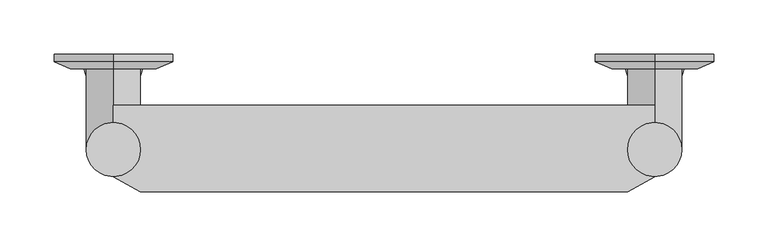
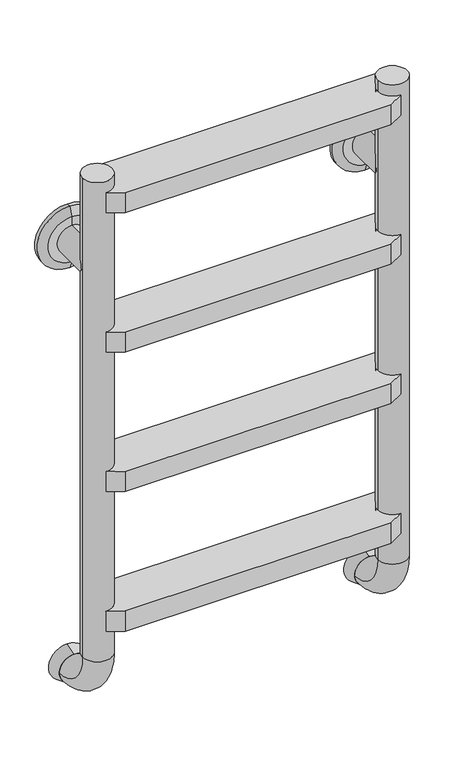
"""IFC4 building model written with IfcOpenShell, lengths in millimetres: proxy geometry, PTDX : PTDX4_Escalera Partida 4 Peldaños."""

import ifcopenshell
import ifcopenshell.guid

model = None  # the IFC model being written
_history = None  # IfcOwnerHistory: only IFC2X3 demands one
_inside = {}  # id of a spatial element -> (the spatial element, [elements in it])
_under = {}  # id of a project, library or spatial element -> (it, [spatial elements below it])
_declared = {}  # id of a project -> (the project, [libraries it declares])
_typed = {}  # id of a type object -> (the type object, [elements of that type])
_made_of = {}  # id of a material, layer set ... -> (it, [elements and type objects made of it])


def new_model(schema):
    """Start an empty IFC model of exactly this schema.

    Asked for "IFC4X3", IfcOpenShell would pick the latest addendum, in which some entities
    have other attributes; the version numbers below select the first issue.
    IFC2X3 requires an IfcOwnerHistory on every rooted entity: one is made here for all.
    """
    global model, _history
    if schema == "IFC4X3":
        model = ifcopenshell.file(schema_version=(4, 3, 0, 0))
    else:
        model = ifcopenshell.file(schema=schema)
    _inside.clear()
    _under.clear()
    _declared.clear()
    _typed.clear()
    _made_of.clear()
    _history = None
    if model.schema == "IFC2X3":
        org = make("IfcOrganization", Name="unknown")
        user = make(
            "IfcPersonAndOrganization",
            ThePerson=make("IfcPerson", FamilyName="unknown"),
            TheOrganization=org,
        )
        app = make(
            "IfcApplication",
            ApplicationDeveloper=org,
            Version="unknown",
            ApplicationFullName="unknown",
            ApplicationIdentifier="unknown",
        )
        _history = make(
            "IfcOwnerHistory",
            OwningUser=user,
            OwningApplication=app,
            ChangeAction="ADDED",
            CreationDate=0,
        )
    return model


def make(cls, **values):
    """One entity of the class cls with the attributes given. An attribute that is None is left unset."""
    return model.create_entity(
        cls, **{name: value for name, value in values.items() if value is not None}
    )


def rooted(cls, **values):
    """An entity with a GlobalId (a new one), such as an element, a storey or a relation."""
    return make(cls, GlobalId=ifcopenshell.guid.new(), OwnerHistory=_history, **values)


def si_unit(unit_type, name, prefix=None):
    """IfcSIUnit, for example si_unit("LENGTHUNIT", "METRE", prefix="MILLI")."""
    return make("IfcSIUnit", UnitType=unit_type, Prefix=prefix, Name=name)


def assignment(units):
    """IfcUnitAssignment: the units of a project."""
    return None if units is None else make("IfcUnitAssignment", Units=units)


def point(xyz):
    """IfcCartesianPoint."""
    return None if xyz is None else make("IfcCartesianPoint", Coordinates=xyz)


def direction(xyz):
    """IfcDirection."""
    return None if xyz is None else make("IfcDirection", DirectionRatios=xyz)


def frame(location, z_axis=None, x_axis=None):
    """IfcAxis2Placement3D, a coordinate frame: its origin and axes. An axis left out is left unset."""
    return make(
        "IfcAxis2Placement3D",
        Location=point(location),
        Axis=direction(z_axis),
        RefDirection=direction(x_axis),
    )


def origin():
    """The frame at (0, 0, 0) with its axes left unset."""
    return frame((0.0, 0.0, 0.0))


def place(relative_to, where):
    """IfcLocalPlacement: puts the frame where relative to a parent placement (None: the world)."""
    return make(
        "IfcLocalPlacement", PlacementRelTo=relative_to, RelativePlacement=where
    )


def context(
    kind, dimensions, precision=None, world=None, true_north=None, identifier=None
):
    """IfcGeometricRepresentationContext, for example the 3D "Model" context."""
    return make(
        "IfcGeometricRepresentationContext",
        ContextIdentifier=identifier,
        ContextType=kind,
        CoordinateSpaceDimension=dimensions,
        Precision=precision,
        WorldCoordinateSystem=world,
        TrueNorth=true_north,
    )


def project(units=None, contexts=None):
    """IfcProject with its units and contexts."""
    return rooted(
        "IfcProject",
        Name="project",
        RepresentationContexts=contexts,
        UnitsInContext=assignment(units),
    )


def spatial(cls, under=None, at=None, **own):
    """A site, building, storey or space (cls), placed at a placement, below another one or the project."""
    s = rooted(cls, ObjectPlacement=at, **own)
    if under is not None:
        _under.setdefault(under.id(), (under, []))[1].append(s)
    return s


def polyline(points):
    """IfcPolyline through the points."""
    return make("IfcPolyline", Points=[point(p) for p in points])


def circle_curve(where, radius):
    """IfcCircle in the frame where."""
    return make("IfcCircle", Position=where, Radius=radius)


def ellipse_curve(where, semi_axis1, semi_axis2):
    """IfcEllipse in the frame where."""
    return make(
        "IfcEllipse", Position=where, SemiAxis1=semi_axis1, SemiAxis2=semi_axis2
    )


def trimmed(basis, trim1, trim2, sense, master):
    """IfcTrimmedCurve: the piece of a basis curve between two trims."""
    return make(
        "IfcTrimmedCurve",
        BasisCurve=basis,
        Trim1=trim1,
        Trim2=trim2,
        SenseAgreement=sense,
        MasterRepresentation=master,
    )


def outline(outer, holes=None, kind="AREA"):
    """IfcArbitraryClosedProfileDef: a profile drawn as a closed curve; with holes, ...WithVoids."""
    if holes is None:
        return make("IfcArbitraryClosedProfileDef", ProfileType=kind, OuterCurve=outer)
    return make(
        "IfcArbitraryProfileDefWithVoids",
        ProfileType=kind,
        OuterCurve=outer,
        InnerCurves=holes,
    )


def extrude(swept, where, along, depth):
    """IfcExtrudedAreaSolid: the profile swept, set in the frame where, extruded along a direction by depth."""
    return make(
        "IfcExtrudedAreaSolid",
        SweptArea=swept,
        Position=where,
        ExtrudedDirection=direction(along),
        Depth=depth,
    )


def shape(context_of_items, identifier, shape_type, items):
    """IfcShapeRepresentation: the items that make up one representation, for example the "Body"."""
    return make(
        "IfcShapeRepresentation",
        ContextOfItems=context_of_items,
        RepresentationIdentifier=identifier,
        RepresentationType=shape_type,
        Items=items,
    )


def source(mapping_origin, context_of_items, identifier, shape_type, items):
    """IfcRepresentationMap: a shape defined once, which mapped items show again and again."""
    return make(
        "IfcRepresentationMap",
        MappingOrigin=mapping_origin,
        MappedRepresentation=shape(context_of_items, identifier, shape_type, items),
    )


def transform(
    local_origin,
    x_axis=None,
    y_axis=None,
    z_axis=None,
    scale=None,
    scale2=None,
    scale3=None,
    uniform=True,
):
    """IfcCartesianTransformationOperator3D, or its non-uniform kind. x_axis, y_axis, z_axis: its Axis1, 2, 3."""
    if uniform:
        return make(
            "IfcCartesianTransformationOperator3D",
            Axis1=direction(x_axis),
            Axis2=direction(y_axis),
            LocalOrigin=point(local_origin),
            Scale=scale,
            Axis3=direction(z_axis),
        )
    return make(
        "IfcCartesianTransformationOperator3DnonUniform",
        Axis1=direction(x_axis),
        Axis2=direction(y_axis),
        LocalOrigin=point(local_origin),
        Scale=scale,
        Axis3=direction(z_axis),
        Scale2=scale2,
        Scale3=scale3,
    )


def mapped(mapping_source, mapping_target):
    """IfcMappedItem: shows the shape of a source again, moved by a transform."""
    return make(
        "IfcMappedItem", MappingSource=mapping_source, MappingTarget=mapping_target
    )


def made_of(thing, what):
    """Note that an element or type object is made of a material, layer set ...; save() writes the relation."""
    if what is not None:
        _made_of.setdefault(what.id(), (what, []))[1].append(thing)
    return thing


def element(
    cls,
    number,
    at=None,
    inside=None,
    cuts=None,
    type_object=None,
    material=None,
    context=None,
    identifier="Body",
    shape_type=None,
    held_by="IfcProductDefinitionShape",
    body=None,
    shapes=None,
    **own,
):
    """One element of the class cls, such as IfcWall. Its Tag is "e" and its number.

    at: its placement. inside: the storey or other place that contains it. cuts: it is an
    opening in that element (IfcRelVoidsElement). A single representation is given by context,
    identifier, shape_type and body (its items); several are given by shapes. held_by: the class
    of the entity that holds the representations. save() writes the other relations.
    """
    e = rooted(cls, Tag="e%d" % number, ObjectPlacement=at, **own)
    if body is not None:
        shapes = [shape(context, identifier, shape_type, body)]
    if shapes is not None:
        e.Representation = make(held_by, Representations=shapes)
    if inside is not None:
        _inside.setdefault(inside.id(), (inside, []))[1].append(e)
    if cuts is not None:
        rooted(
            "IfcRelVoidsElement", RelatingBuildingElement=cuts, RelatedOpeningElement=e
        )
    if type_object is not None:
        _typed.setdefault(type_object.id(), (type_object, []))[1].append(e)
    return made_of(e, material)


def aggregate(whole, parts):
    """IfcRelAggregates: a whole, such as a stair, and the parts it consists of."""
    return rooted("IfcRelAggregates", RelatingObject=whole, RelatedObjects=parts)


def save(model, path):
    """Write the relations noted so far, then the file.

    IfcRelAggregates (storeys below a building ...), IfcRelContainedInSpatialStructure (elements
    in a storey), IfcRelDefinesByType, IfcRelAssociatesMaterial and IfcRelDeclares: one each for
    every whole, place, type object, material and project.
    """
    for whole, parts in _under.values():
        aggregate(whole, parts)
    for where, things in _inside.values():
        rooted(
            "IfcRelContainedInSpatialStructure",
            RelatedElements=things,
            RelatingStructure=where,
        )
    for kind, things in _typed.values():
        rooted("IfcRelDefinesByType", RelatedObjects=things, RelatingType=kind)
    for what, things in _made_of.values():
        rooted("IfcRelAssociatesMaterial", RelatedObjects=things, RelatingMaterial=what)
    for by, libraries in _declared.values():
        rooted("IfcRelDeclares", RelatingContext=by, RelatedDefinitions=libraries)
    model.write(path)


def plane_surface(at):
    """IfcPlane: the flat surface through the origin of the frame at, square to its z axis."""
    return make("IfcPlane", Position=at)


def cylinder_surface(at, radius):
    """IfcCylindricalSurface: all points at the distance radius from the z axis of the frame at."""
    return make("IfcCylindricalSurface", Position=at, Radius=radius)


def revolved_surface(curve, axis_point, axis_direction):
    """IfcSurfaceOfRevolution: the curve turned about the line through axis_point along axis_direction."""
    return make(
        "IfcSurfaceOfRevolution",
        SweptCurve=make("IfcArbitraryOpenProfileDef", ProfileType="CURVE", Curve=curve),
        AxisPosition=make("IfcAxis1Placement", Location=point(axis_point), Axis=direction(axis_direction)),
    )


def advanced_brep(points, edges, surfaces, faces):
    """IfcAdvancedBrep: a solid bounded by faces that lie on surfaces and meet in shared edges.

    An edge is (start, end): straight between two places in points (the first is 0);
    or (start, end, curve); or (start, end, curve, False) where it runs against its curve.
    A face is (place in surfaces, loops), or (place, loops, False) where it looks against
    its surface's normal. A loop lists edges by number (the first is 1), with a minus sign
    where the edge is run from its end to its start. The first loop is the outer one.
    """
    corners = [point(p) for p in points]
    vertices = [make("IfcVertexPoint", VertexGeometry=c) for c in corners]
    made = []
    for start, end, *more in edges:
        made.append(
            make(
                "IfcEdgeCurve",
                EdgeStart=vertices[start],
                EdgeEnd=vertices[end],
                EdgeGeometry=more[0] if more else make("IfcPolyline", Points=[corners[start], corners[end]]),
                SameSense=more[1] if len(more) > 1 else True,
            )
        )
    hull = []
    for where, loops, *sense in faces:
        bounds = []
        for j, loop in enumerate(loops):
            ring = [make("IfcOrientedEdge", EdgeElement=made[abs(k) - 1], Orientation=k > 0) for k in loop]
            bounds.append(
                make(
                    "IfcFaceOuterBound" if j == 0 else "IfcFaceBound",
                    Bound=make("IfcEdgeLoop", EdgeList=ring),
                    Orientation=True,
                )
            )
        hull.append(make("IfcAdvancedFace", Bounds=bounds, FaceSurface=surfaces[where], SameSense=sense[0] if sense else True))
    return make("IfcAdvancedBrep", Outer=make("IfcClosedShell", CfsFaces=hull))


def generic_models_c9267e70(model_context):
    return source(origin(), model_context, "Body", "SolidModel", [
        advanced_brep(
        [(-250.0, -20.3337805, -1183.3738999), (-250.0, -20.3337805, -1133.3738999), (-250.0, -20.3337805, -1158.3738999), (-250.0, 0.0, -1190.0), (-250.0, 0.0, -1126.7477998), (-250.0, 0.0, -1158.3738999)],
        [
            (0, 1, circle_curve(frame((-250.0, -20.3337805, -1158.3738999), z_axis=(0.0, -1.0, 0.0), x_axis=(0.0, 0.0, 1.0)), 25.0)),
            (1, 2),
            (2, 0),
            (1, 0, circle_curve(frame((-250.0, -20.3337805, -1158.3738999), z_axis=(0.0, -1.0, 0.0), x_axis=(0.0, 0.0, 1.0)), 25.0)),
            (3, 4, circle_curve(frame((-250.0, 0.0, -1158.3738999), z_axis=(0.0, -1.0, 0.0), x_axis=(0.0, 0.0, 1.0)), 31.6261001)),
            (4, 1),
            (0, 3),
            (4, 3, circle_curve(frame((-250.0, 0.0, -1158.3738999), z_axis=(0.0, -1.0, 0.0), x_axis=(0.0, 0.0, 1.0)), 31.6261001)),
            (5, 4),
            (3, 5),
        ],
        [
            plane_surface(frame((-250.0, -20.3337805, -1158.3738999), z_axis=(0.0, -1.0, 0.0), x_axis=(0.0, 0.0, 1.0))),
            revolved_surface(polyline([(-250.0, -20.3337805, -1133.3738999), (-250.0, 0.0, -1126.7477998)]), (-250.0, -2671.5080003, -1158.3738999), (0.0, 1.0, 0.0)),
            plane_surface(frame((-250.0, 0.0, -1158.3738999), z_axis=(0.0, 1.0, 0.0), x_axis=(0.0, 0.0, 1.0))),
        ],
        [
            (0, [[1, 2, 3]]),
            (0, [[4, -3, -2]]),
            (1, [[5, 6, -1, 7]]),
            (1, [[8, -7, -4, -6]]),
            (2, [[9, -5, 10]]),
            (2, [[-10, -8, -9]]),
        ],
    ),
        advanced_brep(
        [(-275.0, -88.1153942, -230.0), (-225.0, -88.1153942, -230.0), (-225.0, -88.1153942, -1088.3738999), (-275.0, -88.1153942, -1088.3738999), (-225.0, 0.0, -1158.3727817), (-250.0, 0.0, -1183.3727817), (-275.0, 0.0, -1158.3727817), (-250.0, 0.0, -1133.3727817), (-275.0, -18.1165123, -1158.3727817), (-275.0, -20.3337805, -1158.3376561), (-225.0, -20.3337805, -1158.3376561), (-225.0, -18.1165123, -1158.3727817)],
        [
            (0, 1, circle_curve(frame((-250.0, -88.1153942, -230.0), z_axis=(0.0, 0.0, -1.0), x_axis=(-1.0, 0.0, 0.0)), 25.0)),
            (1, 2),
            (2, 3, circle_curve(frame((-250.0, -88.1153942, -1088.3738999), z_axis=(0.0, 0.0, 1.0), x_axis=(-1.0, 0.0, 0.0)), 25.0)),
            (3, 0),
            (1, 0, circle_curve(frame((-250.0, -88.1153942, -230.0), z_axis=(0.0, 0.0, -1.0), x_axis=(-1.0, 0.0, 0.0)), 25.0)),
            (3, 2, circle_curve(frame((-250.0, -88.1153942, -1088.3738999), z_axis=(0.0, 0.0, 1.0), x_axis=(-1.0, 0.0, 0.0)), 25.0)),
            (4, 5, circle_curve(frame((-250.0, 0.0, -1158.3727817), z_axis=(0.0, 1.0, 0.0), x_axis=(-1.0, 0.0, 0.0)), 25.0)),
            (5, 6, circle_curve(frame((-250.0, 0.0, -1158.3727817), z_axis=(0.0, 1.0, 0.0), x_axis=(-1.0, 0.0, 0.0)), 25.0)),
            (6, 7, circle_curve(frame((-250.0, 0.0, -1158.3727817), z_axis=(0.0, 1.0, 0.0), x_axis=(-1.0, 0.0, 0.0)), 25.0)),
            (7, 4, circle_curve(frame((-250.0, 0.0, -1158.3727817), z_axis=(0.0, 1.0, 0.0), x_axis=(-1.0, 0.0, 0.0)), 25.0)),
            (8, 9, circle_curve(frame((-275.0, -18.1165123, -1088.3738999), z_axis=(-1.0, 0.0, 0.0), x_axis=(0.0, -1.0, 0.0)), 69.9988818)),
            (9, 3, circle_curve(frame((-275.0, -18.1165123, -1088.3738999), z_axis=(-1.0, 0.0, 0.0), x_axis=(0.0, -1.0, 0.0)), 69.9988818)),
            (2, 10, circle_curve(frame((-225.0, -18.1165123, -1088.3738999), z_axis=(1.0, 0.0, 0.0), x_axis=(0.0, -1.0, 0.0)), 69.9988818)),
            (10, 11, circle_curve(frame((-225.0, -18.1165123, -1088.3738999), z_axis=(1.0, 0.0, 0.0), x_axis=(0.0, -1.0, 0.0)), 69.9988818)),
            (11, 8, circle_curve(frame((-250.0, -18.1165123, -1158.3727817), z_axis=(0.0, -1.0, 0.0), x_axis=(-1.0, 0.0, 0.0)), 25.0)),
            (8, 11, circle_curve(frame((-250.0, -18.1165123, -1158.3727817), z_axis=(0.0, -1.0, 0.0), x_axis=(-1.0, 0.0, 0.0)), 25.0)),
            (11, 4),
            (6, 8),
        ],
        [
            cylinder_surface(frame((-250.0, -88.1153942, -230.0), z_axis=(0.0, 0.0, 1.0), x_axis=(-1.0, 0.0, 0.0)), 25.0),
            plane_surface(frame((-250.0, 0.0, -1158.3738999), z_axis=(0.0, 1.0, 0.0), x_axis=(-1.0, 0.0, 0.0))),
            plane_surface(frame((-250.0, -88.1165123, -230.0), z_axis=(0.0, 0.0, 1.0), x_axis=(-1.0, 0.0, 0.0))),
            revolved_surface(trimmed(ellipse_curve(frame((-250.0, -88.1153942, -1088.3738999), z_axis=(0.0, 0.0, 1.0), x_axis=(-1.0, 0.0, 0.0)), 25.0, 25.0), [point((-225.0, -88.1153942, -1088.3738999))], [point((-275.0, -88.1153942, -1088.3738999))], True, "CARTESIAN"), (-250.0, -18.1165123, -1088.3738999), (1.0, 0.0, 0.0)),
            revolved_surface(trimmed(ellipse_curve(frame((-250.0, -88.1153942, -1088.3738999), z_axis=(0.0, 0.0, 1.0), x_axis=(-1.0, 0.0, 0.0)), 25.0, 25.0), [point((-275.0, -88.1153942, -1088.3738999))], [point((-225.0, -88.1153942, -1088.3738999))], True, "CARTESIAN"), (-250.0, -18.1165123, -1088.3738999), (1.0, 0.0, 0.0)),
            cylinder_surface(frame((-250.0, -18.1165123, -1158.3727817), z_axis=(0.0, -1.0, 0.0), x_axis=(-1.0, 0.0, 0.0)), 25.0),
        ],
        [
            (0, [[1, 2, 3, 4]]),
            (0, [[5, -4, 6, -2]]),
            (1, [[7, 8, 9, 10]]),
            (2, [[-1, -5]]),
            (3, [[11, 12, -3, 13, 14, 15]]),
            (4, [[-14, -13, -6, -12, -11, 16]]),
            (5, [[-15, 17, -10, -9, 18]]),
            (5, [[-16, -18, -8, -7, -17]]),
        ],
    ),
        extrude(outline(polyline([(-250.0, -47.0), (250.0, -47.0), (250.0, -113.0678838), (225.0, -127.0), (-225.0, -127.0), (-250.0, -113.0678838), (-250.0, -47.0)])), frame((0.0, 0.0, -1036.0), z_axis=(0.0, 0.0, 1.0), x_axis=(1.0, 0.0, 0.0)), (0.0, 0.0, 1.0), 36.0),
        extrude(outline(polyline([(-250.0, -47.0), (250.0, -47.0), (250.0, -113.0678838), (225.0, -127.0), (-225.0, -127.0), (-250.0, -113.0678838), (-250.0, -47.0)])), frame((0.0, 0.0, -786.0), z_axis=(0.0, 0.0, 1.0), x_axis=(1.0, 0.0, 0.0)), (0.0, 0.0, 1.0), 36.0),
        extrude(outline(polyline([(-250.0, -47.0), (250.0, -47.0), (250.0, -113.0678838), (225.0, -127.0), (-225.0, -127.0), (-250.0, -113.0678838), (-250.0, -47.0)])), frame((0.0, 0.0, -536.0), z_axis=(0.0, 0.0, 1.0), x_axis=(1.0, 0.0, 0.0)), (0.0, 0.0, 1.0), 36.0),
        extrude(outline(polyline([(-250.0, -47.0), (250.0, -47.0), (250.0, -113.0678838), (225.0, -127.0), (-225.0, -127.0), (-250.0, -113.0678838), (-250.0, -47.0)])), frame((0.0, 0.0, -286.0), z_axis=(0.0, 0.0, 1.0), x_axis=(1.0, 0.0, 0.0)), (0.0, 0.0, 1.0), 36.0),
        advanced_brep(
        [(250.0, -20.3337805, -1183.3738999), (250.0, -20.3337805, -1133.3738999), (250.0, -20.3337805, -1158.3738999), (250.0, 0.0, -1190.0), (250.0, 0.0, -1126.7477998), (250.0, 0.0, -1158.3738999)],
        [
            (0, 1, circle_curve(frame((250.0, -20.3337805, -1158.3738999), z_axis=(0.0, -1.0, 0.0), x_axis=(0.0, 0.0, 1.0)), 25.0)),
            (1, 2),
            (2, 0),
            (1, 0, circle_curve(frame((250.0, -20.3337805, -1158.3738999), z_axis=(0.0, -1.0, 0.0), x_axis=(0.0, 0.0, 1.0)), 25.0)),
            (3, 4, circle_curve(frame((250.0, 0.0, -1158.3738999), z_axis=(0.0, -1.0, 0.0), x_axis=(0.0, 0.0, 1.0)), 31.6261001)),
            (4, 1),
            (0, 3),
            (4, 3, circle_curve(frame((250.0, 0.0, -1158.3738999), z_axis=(0.0, -1.0, 0.0), x_axis=(0.0, 0.0, 1.0)), 31.6261001)),
            (5, 4),
            (3, 5),
        ],
        [
            plane_surface(frame((250.0, -20.3337805, -1158.3738999), z_axis=(0.0, -1.0, 0.0), x_axis=(0.0, 0.0, 1.0))),
            revolved_surface(polyline([(250.0, -20.3337805, -1133.3738999), (250.0, 0.0, -1126.7477998)]), (250.0, -2671.5080003, -1158.3738999), (0.0, 1.0000000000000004, 0.0)),
            plane_surface(frame((250.0, 0.0, -1158.3738999), z_axis=(0.0, 1.0, 0.0), x_axis=(0.0, 0.0, 1.0))),
        ],
        [
            (0, [[1, 2, 3]]),
            (0, [[4, -3, -2]]),
            (1, [[5, 6, -1, 7]]),
            (1, [[8, -7, -4, -6]]),
            (2, [[9, -5, 10]]),
            (2, [[-10, -8, -9]]),
        ],
    ),
        advanced_brep(
        [(225.0, -88.1153942, -230.0), (275.0, -88.1153942, -230.0), (275.0, -88.1153942, -1088.3738999), (225.0, -88.1153942, -1088.3738999), (275.0, 0.0, -1158.3727817), (250.0, 0.0, -1183.3727817), (225.0, 0.0, -1158.3727817), (250.0, 0.0, -1133.3727817), (225.0, -18.1165123, -1158.3727817), (225.0, -20.3337805, -1158.3376561), (275.0, -20.3337805, -1158.3376561), (275.0, -18.1165123, -1158.3727817)],
        [
            (0, 1, circle_curve(frame((250.0, -88.1153942, -230.0), z_axis=(0.0, 0.0, -1.0), x_axis=(-1.0000000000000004, 0.0, 0.0)), 25.0)),
            (1, 2),
            (2, 3, circle_curve(frame((250.0, -88.1153942, -1088.3738999), z_axis=(0.0, 0.0, 1.0), x_axis=(-1.0000000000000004, 0.0, 0.0)), 25.0)),
            (3, 0),
            (1, 0, circle_curve(frame((250.0, -88.1153942, -230.0), z_axis=(0.0, 0.0, -1.0), x_axis=(-1.0000000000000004, 0.0, 0.0)), 25.0)),
            (3, 2, circle_curve(frame((250.0, -88.1153942, -1088.3738999), z_axis=(0.0, 0.0, 1.0), x_axis=(-1.0000000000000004, 0.0, 0.0)), 25.0)),
            (4, 5, circle_curve(frame((250.0, 0.0, -1158.3727817), z_axis=(0.0, 1.0, 0.0), x_axis=(-1.0000000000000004, 0.0, 0.0)), 25.0)),
            (5, 6, circle_curve(frame((250.0, 0.0, -1158.3727817), z_axis=(0.0, 1.0, 0.0), x_axis=(-1.0000000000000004, 0.0, 0.0)), 25.0)),
            (6, 7, circle_curve(frame((250.0, 0.0, -1158.3727817), z_axis=(0.0, 1.0, 0.0), x_axis=(-1.0000000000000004, 0.0, 0.0)), 25.0)),
            (7, 4, circle_curve(frame((250.0, 0.0, -1158.3727817), z_axis=(0.0, 1.0, 0.0), x_axis=(-1.0000000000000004, 0.0, 0.0)), 25.0)),
            (8, 9, circle_curve(frame((225.0, -18.1165123, -1088.3738999), z_axis=(-1.0, 0.0, 0.0), x_axis=(0.0, -1.0000000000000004, 0.0)), 69.9988818)),
            (9, 3, circle_curve(frame((225.0, -18.1165123, -1088.3738999), z_axis=(-1.0, 0.0, 0.0), x_axis=(0.0, -1.0000000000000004, 0.0)), 69.9988818)),
            (2, 10, circle_curve(frame((275.0, -18.1165123, -1088.3738999), z_axis=(1.0, 0.0, 0.0), x_axis=(0.0, -1.0000000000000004, 0.0)), 69.9988818)),
            (10, 11, circle_curve(frame((275.0, -18.1165123, -1088.3738999), z_axis=(1.0, 0.0, 0.0), x_axis=(0.0, -1.0000000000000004, 0.0)), 69.9988818)),
            (11, 8, circle_curve(frame((250.0, -18.1165123, -1158.3727817), z_axis=(0.0, -1.0000000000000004, 0.0), x_axis=(-1.0000000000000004, 0.0, 0.0)), 25.0)),
            (8, 11, circle_curve(frame((250.0, -18.1165123, -1158.3727817), z_axis=(0.0, -1.0000000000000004, 0.0), x_axis=(-1.0000000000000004, 0.0, 0.0)), 25.0)),
            (11, 4),
            (6, 8),
        ],
        [
            cylinder_surface(frame((250.0, -88.1153942, -230.0), z_axis=(0.0, 0.0, 1.0), x_axis=(-1.0000000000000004, 0.0, 0.0)), 25.0),
            plane_surface(frame((250.0, 0.0, -1158.3738999), z_axis=(0.0, 1.0, 0.0), x_axis=(-1.0, 0.0, 0.0))),
            plane_surface(frame((250.0, -88.1165123, -230.0), z_axis=(0.0, 0.0, 1.0), x_axis=(-1.0, 0.0, 0.0))),
            revolved_surface(trimmed(ellipse_curve(frame((250.0, -88.1153942, -1088.3738999), z_axis=(0.0, 0.0, 1.0), x_axis=(-1.0000000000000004, 0.0, 0.0)), 25.0, 25.0), [point((275.0, -88.1153942, -1088.3738999))], [point((225.0, -88.1153942, -1088.3738999))], True, "CARTESIAN"), (250.0, -18.1165123, -1088.3738999), (1.0000000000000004, 0.0, 0.0)),
            revolved_surface(trimmed(ellipse_curve(frame((250.0, -88.1153942, -1088.3738999), z_axis=(0.0, 0.0, 1.0), x_axis=(-1.0000000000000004, 0.0, 0.0)), 25.0, 25.0), [point((225.0, -88.1153942, -1088.3738999))], [point((275.0, -88.1153942, -1088.3738999))], True, "CARTESIAN"), (250.0, -18.1165123, -1088.3738999), (1.0000000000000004, 0.0, 0.0)),
            cylinder_surface(frame((250.0, -18.1165123, -1158.3727817), z_axis=(0.0, -1.0000000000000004, 0.0), x_axis=(-1.0000000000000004, 0.0, 0.0)), 25.0),
        ],
        [
            (0, [[1, 2, 3, 4]]),
            (0, [[5, -4, 6, -2]]),
            (1, [[7, 8, 9, 10]]),
            (2, [[-1, -5]]),
            (3, [[11, 12, -3, 13, 14, 15]]),
            (4, [[-14, -13, -6, -12, -11, 16]]),
            (5, [[-15, 17, -10, -9, 18]]),
            (5, [[-16, -18, -8, -7, -17]]),
        ],
    ),
        advanced_brep(
        [(-249.9999867, -13.4587805, -353.666142), (-249.9999867, -13.4587805, -433.666142), (-249.9999867, -13.4587805, -418.666142), (-249.9999867, -13.4587805, -368.666142), (-249.9999867, -7.0, -338.666142), (-249.9999867, -7.0, -448.666142), (-249.9999867, 0.0, -338.666142), (-249.9999867, 0.0, -448.666142), (-249.9999867, 0.0, -393.666142), (-249.9999867, -87.9840338, -368.666142), (-249.9999867, -87.9840338, -418.666142), (-249.9999867, -87.9840338, -393.666142)],
        [
            (0, 1, circle_curve(frame((-249.9999867, -13.4587805, -393.666142), z_axis=(0.0, -1.0, 0.0), x_axis=(0.0, 0.0, -1.0)), 40.0)),
            (1, 2),
            (2, 3, circle_curve(frame((-249.9999867, -13.4587805, -393.666142), z_axis=(0.0, 1.0, 0.0), x_axis=(0.0, 0.0, -1.0)), 25.0)),
            (3, 0),
            (1, 0, circle_curve(frame((-249.9999867, -13.4587805, -393.666142), z_axis=(0.0, -1.0, 0.0), x_axis=(0.0, 0.0, -1.0)), 40.0)),
            (3, 2, circle_curve(frame((-249.9999867, -13.4587805, -393.666142), z_axis=(0.0, 1.0, 0.0), x_axis=(0.0, 0.0, -1.0)), 25.0)),
            (4, 5, circle_curve(frame((-249.9999867, -7.0, -393.666142), z_axis=(0.0, -1.0, 0.0), x_axis=(0.0, 0.0, -1.0)), 55.0)),
            (5, 1),
            (0, 4),
            (5, 4, circle_curve(frame((-249.9999867, -7.0, -393.666142), z_axis=(0.0, -1.0, 0.0), x_axis=(0.0, 0.0, -1.0)), 55.0)),
            (6, 7, circle_curve(frame((-249.9999867, 0.0, -393.666142), z_axis=(0.0, -1.0, 0.0), x_axis=(0.0, 0.0, -1.0)), 55.0)),
            (7, 5),
            (4, 6),
            (7, 6, circle_curve(frame((-249.9999867, 0.0, -393.666142), z_axis=(0.0, -1.0, 0.0), x_axis=(0.0, 0.0, -1.0)), 55.0)),
            (8, 7),
            (6, 8),
            (9, 10, circle_curve(frame((-249.9999867, -87.9840338, -393.666142), z_axis=(0.0, -1.0, 0.0), x_axis=(0.0, 0.0, -1.0)), 25.0)),
            (10, 11),
            (11, 9),
            (10, 9, circle_curve(frame((-249.9999867, -87.9840338, -393.666142), z_axis=(0.0, -1.0, 0.0), x_axis=(0.0, 0.0, -1.0)), 25.0)),
            (2, 10),
            (9, 3),
        ],
        [
            plane_surface(frame((-249.9999867, -13.4587805, -393.666142), z_axis=(0.0, -1.0, 0.0), x_axis=(0.0, 0.0, -1.0))),
            revolved_surface(polyline([(-249.9999867, -13.4587805, -433.666142), (-249.9999867, -7.0, -448.666142)]), (-249.9999867, -87.9840338, -393.666142), (0.0, 1.0, 0.0)),
            cylinder_surface(frame((-249.9999867, -87.9840338, -393.666142), z_axis=(0.0, 1.0, 0.0), x_axis=(0.0, 0.0, -1.0)), 55.0),
            plane_surface(frame((-249.9999867, 0.0, -393.666142), z_axis=(0.0, 1.0, 0.0), x_axis=(0.0, 0.0, -1.0))),
            plane_surface(frame((-249.9999867, -87.9840338, -393.666142), z_axis=(0.0, -1.0, 0.0), x_axis=(0.0, 0.0, -1.0))),
            cylinder_surface(frame((-249.9999867, -87.9840338, -393.666142), z_axis=(0.0, 1.0, 0.0), x_axis=(0.0, 0.0, -1.0)), 25.0),
        ],
        [
            (0, [[1, 2, 3, 4]]),
            (0, [[5, -4, 6, -2]]),
            (1, [[7, 8, -1, 9]]),
            (1, [[10, -9, -5, -8]]),
            (2, [[11, 12, -7, 13]]),
            (2, [[14, -13, -10, -12]]),
            (3, [[15, -11, 16]]),
            (3, [[-16, -14, -15]]),
            (4, [[17, 18, 19]]),
            (4, [[20, -19, -18]]),
            (5, [[-3, 21, -17, 22]]),
            (5, [[-6, -22, -20, -21]]),
        ],
    ),
        advanced_brep(
        [(250.0000133, -13.4587805, -353.666142), (250.0000133, -13.4587805, -433.666142), (250.0000133, -13.4587805, -418.666142), (250.0000133, -13.4587805, -368.666142), (250.0000133, -7.0, -338.666142), (250.0000133, -7.0, -448.666142), (250.0000133, 0.0, -338.666142), (250.0000133, 0.0, -448.666142), (250.0000133, 0.0, -393.666142), (250.0000133, -87.9840338, -368.666142), (250.0000133, -87.9840338, -418.666142), (250.0000133, -87.9840338, -393.666142)],
        [
            (0, 1, circle_curve(frame((250.0000133, -13.4587805, -393.666142), z_axis=(0.0, -1.0, 0.0), x_axis=(0.0, 0.0, -1.0)), 40.0)),
            (1, 2),
            (2, 3, circle_curve(frame((250.0000133, -13.4587805, -393.666142), z_axis=(0.0, 1.0, 0.0), x_axis=(0.0, 0.0, -1.0)), 25.0)),
            (3, 0),
            (1, 0, circle_curve(frame((250.0000133, -13.4587805, -393.666142), z_axis=(0.0, -1.0, 0.0), x_axis=(0.0, 0.0, -1.0)), 40.0)),
            (3, 2, circle_curve(frame((250.0000133, -13.4587805, -393.666142), z_axis=(0.0, 1.0, 0.0), x_axis=(0.0, 0.0, -1.0)), 25.0)),
            (4, 5, circle_curve(frame((250.0000133, -7.0, -393.666142), z_axis=(0.0, -1.0, 0.0), x_axis=(0.0, 0.0, -1.0)), 55.0)),
            (5, 1),
            (0, 4),
            (5, 4, circle_curve(frame((250.0000133, -7.0, -393.666142), z_axis=(0.0, -1.0, 0.0), x_axis=(0.0, 0.0, -1.0)), 55.0)),
            (6, 7, circle_curve(frame((250.0000133, 0.0, -393.666142), z_axis=(0.0, -1.0, 0.0), x_axis=(0.0, 0.0, -1.0)), 55.0)),
            (7, 5),
            (4, 6),
            (7, 6, circle_curve(frame((250.0000133, 0.0, -393.666142), z_axis=(0.0, -1.0, 0.0), x_axis=(0.0, 0.0, -1.0)), 55.0)),
            (8, 7),
            (6, 8),
            (9, 10, circle_curve(frame((250.0000133, -87.9840338, -393.666142), z_axis=(0.0, -1.0, 0.0), x_axis=(0.0, 0.0, -1.0)), 25.0)),
            (10, 11),
            (11, 9),
            (10, 9, circle_curve(frame((250.0000133, -87.9840338, -393.666142), z_axis=(0.0, -1.0, 0.0), x_axis=(0.0, 0.0, -1.0)), 25.0)),
            (2, 10),
            (9, 3),
        ],
        [
            plane_surface(frame((250.0000133, -13.4587805, -393.666142), z_axis=(0.0, -1.0, 0.0), x_axis=(0.0, 0.0, -1.0))),
            revolved_surface(polyline([(250.0000133, -13.4587805, -433.666142), (250.0000133, -7.0, -448.666142)]), (250.0000133, -87.9840338, -393.666142), (0.0, 1.0, 0.0)),
            cylinder_surface(frame((250.0000133, -87.9840338, -393.666142), z_axis=(0.0, 1.0, 0.0), x_axis=(0.0, 0.0, -1.0)), 55.0),
            plane_surface(frame((250.0000133, 0.0, -393.666142), z_axis=(0.0, 1.0, 0.0), x_axis=(0.0, 0.0, -1.0))),
            plane_surface(frame((250.0000133, -87.9840338, -393.666142), z_axis=(0.0, -1.0, 0.0), x_axis=(0.0, 0.0, -1.0))),
            cylinder_surface(frame((250.0000133, -87.9840338, -393.666142), z_axis=(0.0, 1.0, 0.0), x_axis=(0.0, 0.0, -1.0)), 25.0),
        ],
        [
            (0, [[1, 2, 3, 4]]),
            (0, [[5, -4, 6, -2]]),
            (1, [[7, 8, -1, 9]]),
            (1, [[10, -9, -5, -8]]),
            (2, [[11, 12, -7, 13]]),
            (2, [[14, -13, -10, -12]]),
            (3, [[15, -11, 16]]),
            (3, [[-16, -14, -15]]),
            (4, [[17, 18, 19]]),
            (4, [[20, -19, -18]]),
            (5, [[-3, 21, -17, 22]]),
            (5, [[-6, -22, -20, -21]]),
        ],
    ),
    ])


if __name__ == "__main__":
    model = new_model("IFC4")
    model_context = context("Model", 3, world=origin())
    ifc_project = project(units=[si_unit("LENGTHUNIT", "METRE", prefix="MILLI")], contexts=[model_context])
    site = spatial("IfcSite", under=ifc_project)
    building = spatial("IfcBuilding", under=site)
    placement = place(None, origin())
    generic_models_shape = generic_models_c9267e70(model_context)
    element("IfcBuildingElementProxy", 1, Name="PTDX : PTDX4_Escalera Partida 4 Peldaños", ObjectType="PTDX : PTDX4_Escalera Partida 4 Peldaños", at=placement, inside=building, context=model_context, shape_type="MappedRepresentation", body=[
        mapped(generic_models_shape, transform((0.0, 0.0, 0.0), x_axis=(1.0, 0.0, 0.0), y_axis=(0.0, 1.0, 0.0), z_axis=(0.0, 0.0, 1.0))),
    ])
    save(model, "model.ifc")
